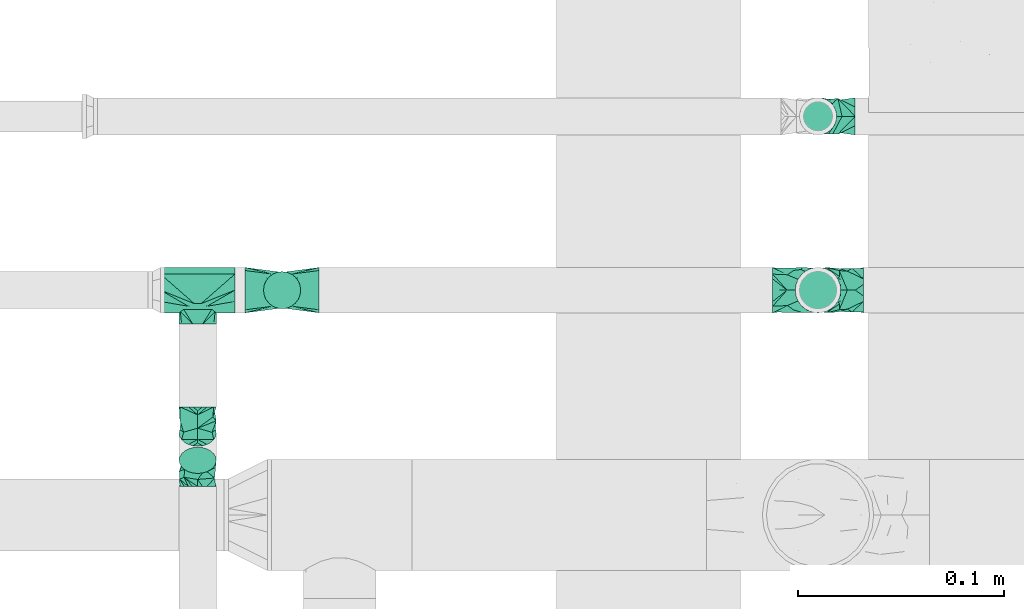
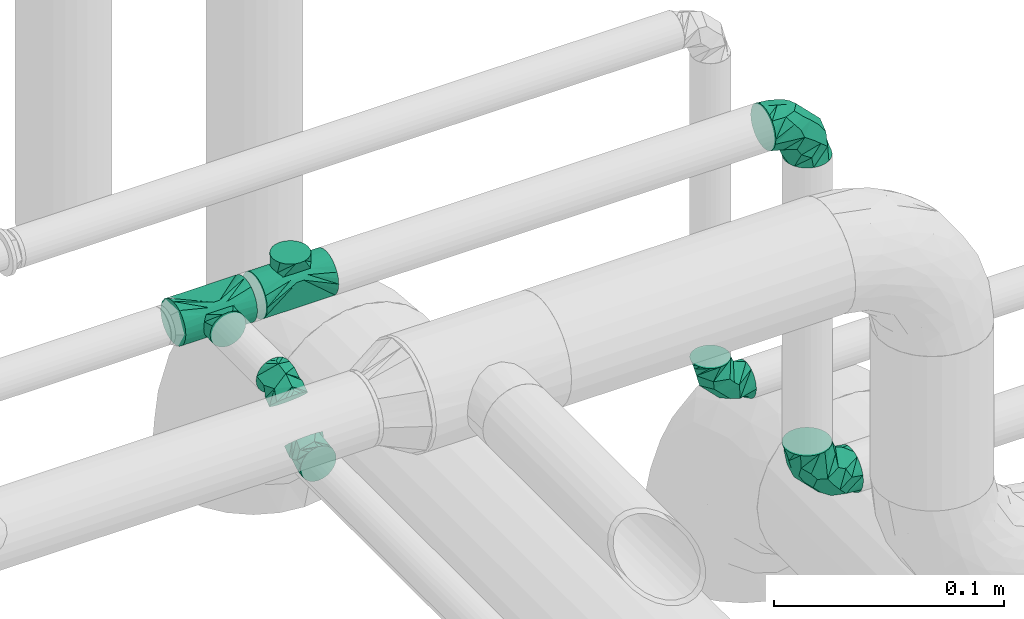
# One storey, part 93 of 156: 7 flow fittings.
"""IFC2X3 building model written with IfcOpenShell, lengths in millimetres."""

from ifc_helpers import new_model, entity, si_unit, converted_unit, derived_unit, direction, frame, origin_with_axes, place, context, subcontext, project, spatial, open_shell, surface_model, source, transform, mapped, type_object, element, save


model = new_model("IFC2X3")

# Units and contexts
model_context = context("Model", 3, precision=0.01, world=frame((0.0, 4.29681676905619e-09, 0.0)), true_north=direction((4.01073788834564e-13, 1.0)))
plan_context = context("Plan", 3, precision=0.01, world=frame((0.0, 4.29681676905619e-09, 0.0)), true_north=direction((4.01073788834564e-13, 1.0)))
body_context = subcontext(model_context, "Body", "Model", "MODEL_VIEW")
ifc_project = project(units=[converted_unit("PLANEANGLEUNIT", "DEGREE", entity("IfcPositiveLengthMeasure", 0.0174532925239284), si_unit("PLANEANGLEUNIT", "RADIAN"), dimensions=[0, 0, 0, 0, 0, 0, 0]), si_unit("AREAUNIT", "SQUARE_METRE"), si_unit("LENGTHUNIT", "METRE", prefix="MILLI"), si_unit("MASSUNIT", "GRAM", prefix="KILO"), si_unit("POWERUNIT", "WATT"), si_unit("PRESSUREUNIT", "PASCAL", prefix="KILO"), si_unit("FORCEUNIT", "NEWTON", prefix="KILO"), si_unit("ELECTRICVOLTAGEUNIT", "VOLT"), si_unit("ELECTRICCURRENTUNIT", "AMPERE"), si_unit("THERMODYNAMICTEMPERATUREUNIT", "DEGREE_CELSIUS"), si_unit("TIMEUNIT", "SECOND"), si_unit("VOLUMEUNIT", "CUBIC_METRE"), derived_unit("LINEARVELOCITYUNIT", [(si_unit("LENGTHUNIT", "METRE"), 1), (si_unit("TIMEUNIT", "SECOND"), -1)]), derived_unit("VOLUMETRICFLOWRATEUNIT", [(si_unit("VOLUMEUNIT", "CUBIC_METRE"), 1), (si_unit("TIMEUNIT", "SECOND"), -1)]), derived_unit("THERMALTRANSMITTANCEUNIT", [(si_unit("POWERUNIT", "WATT"), 1), (si_unit("THERMODYNAMICTEMPERATUREUNIT", "KELVIN"), -1), (si_unit("AREAUNIT", "SQUARE_METRE"), -1)]), derived_unit("SOUNDPRESSUREUNIT", [(si_unit("PRESSUREUNIT", "PASCAL"), 1)])], contexts=[model_context, plan_context])

# Site, building, storey
site_placement = place(None, frame((0.0, -4.29681676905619e-09, 0.0), z_axis=(0.0, 0.0, 1.0), x_axis=(1.0, 0.0, 0.0)))
site = spatial("IfcSite", under=ifc_project, at=site_placement, CompositionType="ELEMENT")
building_placement = place(site_placement, frame((0.0, 4.29681676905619e-09, 0.0), z_axis=(0.0, 0.0, 1.0), x_axis=(1.0, 0.0, 0.0)))
building = spatial("IfcBuilding", under=site, at=building_placement, Name="mc-building", CompositionType="ELEMENT")
storey_placement = place(building_placement, frame((0.0, 0.0, 205200.0), z_axis=(0.0, 0.0, 1.0), x_axis=(1.0, 0.0, 0.0)))
storey = spatial("IfcBuildingStorey", under=building, at=storey_placement, Name="Nivå D + 1,2 m", CompositionType="ELEMENT", Elevation=205200.0)

# Flow fittings
pipe_fitting_type_1 = type_object("IfcPipeFittingType", Name="magi_pipe_elbow_short_001", PredefinedType="BEND")
shared_shape_1 = source(origin_with_axes(), body_context, "Body", "SurfaceModel", [
    surface_model("IfcShellBasedSurfaceModel", [(-18.0, 4.5, -7.79423), (-18.0, 2.32937, -8.69333), (-18.0, 0.0, -9.0), (-18.0, -6.36396, -6.36396), (-18.0, 8.69333, -2.32937), (-18.0, 7.79423, -4.5), (-18.0, 6.36396, -6.36396), (-18.0, -4.5, -7.79423), (-18.0, -2.32937, -8.69333), (-18.0, -7.79423, -4.5), (-18.0, -8.69333, -2.32937), (-18.0, -9.0, 0.0), (-18.0, 8.69333, 2.32937), (-18.0, -8.69333, 2.32937), (-18.0, 7.79423, 4.5), (-18.0, 6.36396, 6.36396), (-18.0, 2.32937, 8.69333), (-18.0, 4.5, 7.79423), (-18.0, -7.79423, 4.5), (-18.0, -6.36396, 6.36396), (-18.0, -4.5, 7.79423), (-18.0, -2.32937, 8.69333), (-18.0, 0.0, 9.0), (-18.0, 9.0, 0.0), (0.0, 18.0, -9.0), (-2.32937, 18.0, -8.69333), (-4.5, 18.0, -7.79423), (6.36396, 18.0, -6.36396), (-7.79423, 18.0, -4.5), (-8.69333, 18.0, -2.32937), (-6.36396, 18.0, -6.36396), (8.69333, 18.0, 2.32937), (9.0, 18.0, 0.0), (2.32937, 18.0, -8.69333), (4.5, 18.0, -7.79423), (8.69333, 18.0, -2.32937), (7.79423, 18.0, -4.5), (-8.69333, 18.0, 2.32937), (-6.36396, 18.0, 6.36396), (-7.79423, 18.0, 4.5), (-4.5, 18.0, 7.79423), (-2.32937, 18.0, 8.69333), (7.79423, 18.0, 4.5), (6.36396, 18.0, 6.36396), (2.32937, 18.0, 8.69333), (4.5, 18.0, 7.79423), (0.0, 18.0, 9.0), (-9.0, 18.0, 0.0), (-16.09014, -8.48825, 0.0), (-10.51068, -2.97249, 7.92278), (-10.36056, -6.95302, 0.0), (-4.5, -5.38269, 0.0), (0.44134, -0.44134, 0.0), (2.91201, 2.02933, 0.0), (-2.70211, 1.18586, 7.65564), (-2.02933, -2.91201, 0.0), (-14.18028, -7.97651, 0.0), (-7.11648, 7.11648, 8.61373), (-4.93977, 9.63211, 8.64898), (2.97249, 10.51068, 7.92278), (2.01286, 5.84889, 7.1903), (5.38269, 4.5, 0.0), (-5.73616, -2.07922, 7.10204), (8.48825, 16.09014, 0.0), (7.97651, 14.18028, 0.0), (-9.63211, 4.93977, 8.64898), (-10.31802, 14.81802, 0.0), (-14.81802, 10.31802, 0.0), (-11.63604, 11.63604, 0.0), (6.95302, 10.36056, 0.0), (-10.51068, -2.97249, -7.92278), (-4.93977, 9.63211, -8.64898), (0.8585, 4.1248, -7.1903), (-2.68792, 2.14037, -8.03971), (2.97249, 10.51068, -7.92278), (-13.67048, 7.29638, -6.27272), (-8.50355, 2.18787, -8.98901), (-9.83427, 8.11209, -7.36254)], [open_shell([[[0, 1, 2]], [[0, 2, 3]], [[0, 4, 5]], [[6, 0, 5]], [[4, 0, 3]], [[7, 3, 8]], [[3, 2, 8]], [[9, 10, 3]], [[11, 3, 10]], [[3, 11, 4]], [[11, 12, 4]], [[12, 11, 13]], [[14, 12, 15]], [[16, 17, 15]], [[13, 15, 12]], [[15, 18, 16]], [[18, 19, 16]], [[15, 13, 18]], [[20, 21, 19]], [[22, 19, 21]], [[16, 19, 22]], [[23, 4, 12]], [[24, 25, 26]], [[27, 24, 26]], [[28, 29, 26]], [[28, 26, 30]], [[31, 32, 26]], [[33, 27, 34]], [[33, 24, 27]], [[27, 35, 36]], [[35, 27, 32]], [[26, 32, 27]], [[26, 29, 37]], [[31, 26, 37]], [[38, 37, 39]], [[38, 40, 41]], [[37, 38, 31]], [[41, 42, 38]], [[41, 43, 42]], [[42, 31, 38]], [[43, 44, 45]], [[44, 43, 46]], [[46, 43, 41]], [[37, 29, 47]], [[13, 48, 18]], [[49, 50, 51]], [[52, 53, 54]], [[54, 55, 52]], [[20, 19, 56]], [[18, 56, 19]], [[57, 54, 58]], [[20, 50, 21]], [[22, 21, 50]], [[59, 60, 61]], [[59, 58, 60]], [[55, 54, 62]], [[22, 50, 49]], [[22, 49, 16]], [[62, 49, 51]], [[62, 51, 55]], [[42, 63, 31]], [[49, 17, 16]], [[64, 63, 42]], [[12, 65, 23]], [[14, 15, 49]], [[54, 65, 62]], [[17, 49, 15]], [[57, 58, 66]], [[67, 57, 68]], [[53, 60, 54]], [[44, 46, 69]], [[69, 45, 44]], [[38, 59, 40]], [[41, 59, 46]], [[43, 45, 64]], [[54, 60, 58]], [[64, 45, 69]], [[61, 60, 53]], [[31, 63, 32]], [[59, 61, 69]], [[58, 47, 66]], [[20, 56, 50]], [[54, 57, 65]], [[49, 65, 14]], [[37, 47, 58]], [[64, 42, 43]], [[39, 37, 58]], [[14, 65, 12]], [[38, 39, 59]], [[13, 11, 48]], [[39, 58, 59]], [[48, 56, 18]], [[40, 59, 41]], [[59, 69, 46]], [[49, 62, 65]], [[57, 67, 65]], [[66, 68, 57]], [[67, 23, 65]], [[70, 50, 2]], [[71, 72, 73]], [[74, 71, 28]], [[70, 1, 0]], [[70, 51, 50]], [[35, 32, 63]], [[75, 6, 5]], [[75, 4, 23]], [[5, 4, 75]], [[51, 76, 55]], [[75, 23, 67]], [[70, 6, 75]], [[48, 11, 10]], [[7, 56, 3]], [[2, 50, 8]], [[51, 70, 76]], [[56, 7, 50]], [[7, 8, 50]], [[70, 2, 1]], [[66, 47, 71]], [[52, 72, 53]], [[6, 70, 0]], [[70, 75, 76]], [[73, 52, 55]], [[71, 68, 66]], [[61, 53, 72]], [[34, 64, 69]], [[29, 71, 47]], [[30, 74, 28]], [[56, 9, 3]], [[26, 25, 74]], [[63, 64, 36]], [[56, 48, 9]], [[26, 74, 30]], [[9, 48, 10]], [[24, 74, 25]], [[33, 69, 24]], [[28, 71, 29]], [[27, 64, 34]], [[69, 33, 34]], [[68, 71, 77]], [[74, 24, 69]], [[36, 35, 63]], [[61, 72, 74]], [[61, 74, 69]], [[67, 77, 75]], [[74, 72, 71]], [[36, 64, 27]], [[76, 77, 73]], [[75, 77, 76]], [[77, 71, 73]], [[55, 76, 73]], [[72, 52, 73]], [[77, 67, 68]]])]),
])
flow_fitting_placement = place(storey_placement, frame((326966.13637, 463477.7375, 4110.0), z_axis=(0.0, -1.0, 0.0), x_axis=(0.0, 0.0, -1.0)))
element("IfcFlowFitting", 1, at=flow_fitting_placement, inside=storey, type_object=pipe_fitting_type_1, Name="magi_pipe_elbow_short_001", context=body_context, shape_type="MappedRepresentation", body=[
    mapped(shared_shape_1, transform((0.0, 0.0, 0.0), scale=1.0)),
])
shared_shape_2 = source(origin_with_axes(), body_context, "Body", "SurfaceModel", [
    surface_model("IfcShellBasedSurfaceModel", [(-22.0, 0.0, -11.0), (-22.0, -2.84701, -10.62518), (-22.0, 2.84701, -10.62518), (-22.0, 5.5, -9.52628), (-22.0, 7.77817, -7.77817), (-22.0, 10.62518, -2.84701), (-22.0, 9.52628, -5.5), (-22.0, 9.52628, 5.5), (-22.0, 10.62518, 2.84701), (-22.0, 7.77817, 7.77817), (-22.0, -2.84701, 10.62518), (-22.0, 0.0, 11.0), (-22.0, -5.5, 9.52628), (-22.0, -7.77817, -7.77817), (-22.0, -9.52628, -5.5), (-22.0, -5.5, -9.52628), (-22.0, -10.62518, -2.84701), (-22.0, -9.52628, 5.5), (-22.0, -11.0, 0.0), (-22.0, 2.84701, 10.62518), (-22.0, 5.5, 9.52628), (-22.0, -7.77817, 7.77817), (-22.0, -10.62518, 2.84701), (-22.0, 11.0, 0.0), (-2.84701, 22.0, -10.62518), (2.84701, 22.0, -10.62518), (0.0, 22.0, -11.0), (-7.77817, 22.0, -7.77817), (-5.5, 22.0, -9.52628), (-9.52628, 22.0, -5.5), (-10.62518, 22.0, -2.84701), (5.5, 22.0, -9.52628), (9.52628, 22.0, -5.5), (7.77817, 22.0, -7.77817), (10.62518, 22.0, -2.84701), (9.52628, 22.0, 5.5), (11.0, 22.0, 0.0), (-10.62518, 22.0, 2.84701), (-7.77817, 22.0, 7.77817), (-9.52628, 22.0, 5.5), (-5.5, 22.0, 9.52628), (-2.84701, 22.0, 10.62518), (7.77817, 22.0, 7.77817), (10.62518, 22.0, 2.84701), (5.5, 22.0, 9.52628), (0.0, 22.0, 11.0), (2.84701, 22.0, 10.62518), (-11.0, 22.0, 0.0), (-18.49859, -10.0618, 0.0), (-10.24859, -7.85122, 0.0), (-9.34901, -7.11844, 5.09685), (-14.89307, -7.23891, 7.45305), (5.78852, 8.4802, 6.46058), (2.12041, 3.18539, 6.87037), (3.55913, 2.48029, 0.0), (1.01335, 10.61047, 10.36705), (-14.99718, -9.1236, 0.0), (5.14392, 14.4409, 9.10203), (-11.75269, -3.39299, 9.59306), (7.85122, 10.24859, 0.0), (9.1236, 14.99718, 0.0), (-8.06006, 14.23023, 9.19276), (-3.72868, 16.47919, 10.60733), (-15.76443, 3.42828, 10.73288), (-8.21542, -0.66336, 10.02562), (-12.61091, 18.11091, 0.0), (-14.22183, 14.22183, 0.0), (-5.37587, -4.55716, 5.82482), (6.57884, 5.5, 0.0), (-15.57958, 10.44534, 6.62476), (-10.44966, 10.29499, 9.49395), (10.0618, 18.49859, 0.0), (-7.4322, 4.10078, 10.94703), (-2.22445, -1.03187, 7.15282), (0.53942, -0.53942, 0.0), (-3.02405, 7.17381, 10.80133), (-18.11091, 12.61091, 0.0), (-2.48029, -3.55913, 0.0), (-5.5, -6.57884, 0.0), (-9.08269, -0.07613, -10.40197), (-2.22445, -1.03187, -7.15282), (-6.00435, -4.17546, -6.76221), (-8.06006, 14.23023, -9.19276), (-15.76443, 3.42828, -10.73288), (-11.75269, -3.39299, -9.59306), (-15.57958, 10.44534, -6.62476), (-7.4322, 4.10078, -10.94703), (-10.44966, 10.29499, -9.49395), (2.12041, 3.18539, -6.87037), (-3.02405, 7.17381, -10.80133), (-14.89307, -7.23891, -7.45305), (5.14392, 14.4409, -9.10203), (-3.72868, 16.47919, -10.60733), (1.01335, 10.61047, -10.36705), (5.78852, 8.4802, -6.46058), (-9.34901, -7.11844, -5.09685)], [open_shell([[[0, 1, 2]], [[3, 2, 4]], [[5, 6, 4]], [[7, 8, 9]], [[10, 11, 12]], [[4, 2, 1]], [[5, 4, 1]], [[13, 14, 15]], [[1, 15, 14]], [[14, 16, 1]], [[17, 1, 16]], [[18, 17, 16]], [[5, 1, 17]], [[17, 8, 5]], [[19, 20, 9]], [[8, 19, 9]], [[19, 8, 17]], [[17, 21, 19]], [[17, 18, 22]], [[19, 21, 12]], [[11, 19, 12]], [[23, 5, 8]], [[24, 25, 26]], [[27, 24, 28]], [[27, 29, 30]], [[25, 24, 27]], [[25, 27, 30]], [[31, 32, 33]], [[32, 31, 25]], [[25, 34, 32]], [[34, 25, 35]], [[34, 35, 36]], [[35, 25, 30]], [[30, 37, 35]], [[38, 37, 39]], [[38, 40, 41]], [[38, 41, 37]], [[35, 37, 41]], [[41, 42, 35]], [[43, 36, 35]], [[44, 45, 46]], [[44, 42, 41]], [[44, 41, 45]], [[37, 30, 47]], [[17, 22, 48]], [[49, 50, 51]], [[52, 53, 54]], [[52, 55, 53]], [[51, 21, 56]], [[21, 17, 56]], [[41, 57, 45]], [[11, 51, 58]], [[51, 10, 12]], [[57, 59, 60]], [[61, 55, 62]], [[63, 58, 64]], [[65, 66, 61]], [[51, 11, 10]], [[11, 58, 19]], [[67, 58, 50]], [[54, 68, 52]], [[63, 9, 20]], [[22, 18, 48]], [[23, 8, 69]], [[7, 9, 63]], [[62, 40, 38]], [[19, 58, 63]], [[7, 69, 8]], [[63, 20, 19]], [[59, 52, 68]], [[60, 42, 44]], [[57, 46, 45]], [[69, 70, 66]], [[52, 59, 57]], [[39, 62, 38]], [[60, 35, 42]], [[44, 57, 60]], [[44, 46, 57]], [[21, 51, 12]], [[43, 71, 36]], [[51, 56, 49]], [[70, 69, 72]], [[73, 74, 53]], [[75, 72, 73]], [[7, 63, 69]], [[47, 65, 37]], [[35, 71, 43]], [[55, 57, 62]], [[52, 57, 55]], [[41, 40, 62]], [[60, 71, 35]], [[37, 61, 39]], [[48, 56, 17]], [[61, 62, 39]], [[62, 57, 41]], [[69, 63, 72]], [[53, 75, 73]], [[69, 66, 76]], [[67, 64, 58]], [[75, 53, 55]], [[67, 77, 73]], [[55, 61, 75]], [[70, 75, 61]], [[50, 49, 78]], [[67, 50, 78]], [[51, 50, 58]], [[77, 74, 73]], [[73, 72, 64]], [[67, 78, 77]], [[73, 64, 67]], [[63, 64, 72]], [[37, 65, 61]], [[75, 70, 72]], [[23, 69, 76]], [[66, 70, 61]], [[53, 74, 54]], [[79, 80, 81]], [[65, 30, 82]], [[3, 4, 83]], [[2, 84, 0]], [[5, 23, 85]], [[14, 48, 16]], [[83, 6, 85]], [[85, 6, 5]], [[86, 85, 87]], [[83, 86, 79]], [[83, 84, 2]], [[48, 18, 16]], [[80, 77, 81]], [[88, 80, 89]], [[14, 13, 56]], [[15, 1, 90]], [[91, 31, 60]], [[13, 15, 90]], [[90, 1, 0]], [[84, 90, 0]], [[13, 90, 56]], [[29, 92, 82]], [[6, 83, 4]], [[85, 23, 76]], [[80, 88, 74]], [[82, 66, 65]], [[93, 82, 92]], [[29, 82, 30]], [[29, 27, 92]], [[27, 28, 92]], [[71, 60, 32]], [[91, 92, 24]], [[56, 48, 14]], [[34, 36, 71]], [[28, 24, 92]], [[94, 88, 93]], [[26, 91, 24]], [[31, 91, 25]], [[83, 2, 3]], [[94, 93, 91]], [[33, 60, 31]], [[89, 93, 88]], [[25, 91, 26]], [[71, 32, 34]], [[92, 91, 93]], [[59, 91, 60]], [[86, 83, 85]], [[95, 78, 49]], [[33, 32, 60]], [[66, 87, 85]], [[94, 59, 68]], [[89, 80, 86]], [[49, 56, 90]], [[94, 54, 88]], [[59, 94, 91]], [[95, 90, 84]], [[87, 89, 86]], [[82, 93, 89]], [[81, 78, 95]], [[90, 95, 49]], [[81, 95, 84]], [[79, 81, 84]], [[82, 87, 66]], [[83, 79, 84]], [[80, 79, 86]], [[77, 80, 74]], [[77, 78, 81]], [[47, 30, 65]], [[66, 85, 76]], [[89, 87, 82]], [[54, 94, 68]], [[54, 74, 88]]])]),
])
for number, where, z_axis, x_axis, name in (
    (2, (326966.13637, 463393.4875, 4309.0), (0.0, 1.0, 0.0), (1.0, 0.0, 0.0), "magi_pipe_elbow_short_001"),
    (3, (326966.13637, 463393.4875, 4112.0), (0.0, -1.0, 0.0), (0.0, 0.0, -1.0), "magi_pipe_elbow_short_001"),
):
    element("IfcFlowFitting", number, at=place(storey_placement, frame(where, z_axis=z_axis, x_axis=x_axis)), inside=storey, type_object=pipe_fitting_type_1, Name=name, context=body_context, shape_type="MappedRepresentation", body=[
        mapped(shared_shape_2, transform((0.0, 0.0, 0.0), scale=1.0)),
    ])
shared_shape_3 = source(origin_with_axes(), body_context, "Body", "SurfaceModel", [
    surface_model("IfcShellBasedSurfaceModel", [(-7.45584, 4.5, -7.79423), (-7.45584, 2.32937, -8.69333), (-7.45584, 0.0, -9.0), (-7.45584, -6.36396, -6.36396), (-7.45584, 8.69333, -2.32937), (-7.45584, 7.79423, -4.5), (-7.45584, 6.36396, -6.36396), (-7.45584, -4.5, -7.79423), (-7.45584, -2.32937, -8.69333), (-7.45584, -7.79423, -4.5), (-7.45584, -8.69333, -2.32937), (-7.45584, -9.0, 0.0), (-7.45584, 8.69333, 2.32937), (-7.45584, -8.69333, 2.32937), (-7.45584, 7.79423, 4.5), (-7.45584, 6.36396, 6.36396), (-7.45584, 2.32937, 8.69333), (-7.45584, 4.5, 7.79423), (-7.45584, -7.79423, 4.5), (-7.45584, -6.36396, 6.36396), (-7.45584, -4.5, 7.79423), (-7.45584, -2.32937, 8.69333), (-7.45584, 0.0, 9.0), (-7.45584, 9.0, 0.0), (5.27208, 5.27208, -9.0), (3.62496, 6.91919, -8.69333), (2.0901, 8.45406, -7.79423), (9.77208, 0.77208, -6.36396), (-0.23927, 10.78343, -4.5), (-0.87504, 11.41919, -2.32937), (0.77208, 9.77208, -6.36396), (11.41919, -0.87504, -2.32937), (6.91919, 3.62496, -8.69333), (8.45406, 2.0901, -7.79423), (10.78343, -0.23927, -4.5), (11.41919, -0.87504, 2.32937), (11.63604, -1.09188, 0.0), (9.77208, 0.77208, 6.36396), (-0.87504, 11.41919, 2.32937), (0.77208, 9.77208, 6.36396), (-0.23927, 10.78343, 4.5), (2.0901, 8.45406, 7.79423), (3.62496, 6.91919, 8.69333), (10.78343, -0.23927, 4.5), (6.91919, 3.62496, 8.69333), (8.45406, 2.0901, 7.79423), (5.27208, 5.27208, 9.0), (-1.09188, 11.63604, 0.0), (-3.55786, -8.22464, 0.0), (-2.49647, -4.73929, 7.29293), (0.8774, 4.5905, 8.72391), (-0.68155, 0.58624, 8.97389), (-2.85416, 7.01633, 6.62539), (-5.50685, -8.61232, 0.0), (2.87661, -6.94475, 0.0), (-0.34063, -7.5847, 0.0), (4.91359, -2.18987, 6.9831), (5.60405, -5.12233, 0.0), (-4.01169, 9.68508, 0.0), (8.33149, -3.29991, 0.0), (9.98376, -2.1959, 0.0), (-0.73677, 5.37048, -8.2068), (4.81728, -2.45322, -6.83687), (-1.11341, -1.36817, -8.67955)], [open_shell([[[0, 1, 2]], [[0, 2, 3]], [[0, 4, 5]], [[6, 0, 5]], [[4, 0, 3]], [[7, 3, 8]], [[3, 2, 8]], [[9, 10, 3]], [[11, 3, 10]], [[3, 11, 4]], [[11, 12, 4]], [[12, 11, 13]], [[14, 12, 15]], [[16, 17, 15]], [[13, 15, 12]], [[15, 18, 16]], [[18, 19, 16]], [[15, 13, 18]], [[20, 21, 19]], [[22, 19, 21]], [[16, 19, 22]], [[23, 4, 12]], [[24, 25, 26]], [[27, 24, 26]], [[28, 29, 26]], [[28, 26, 30]], [[31, 26, 29]], [[32, 27, 33]], [[32, 24, 27]], [[27, 31, 34]], [[26, 31, 27]], [[31, 35, 36]], [[31, 29, 37]], [[29, 38, 39]], [[39, 38, 40]], [[39, 41, 42]], [[39, 37, 29]], [[37, 39, 42]], [[35, 37, 43]], [[31, 37, 35]], [[37, 44, 45]], [[44, 37, 46]], [[42, 46, 37]], [[38, 29, 47]], [[19, 48, 20]], [[18, 48, 19]], [[20, 48, 49]], [[40, 50, 39]], [[17, 49, 51]], [[49, 22, 21]], [[52, 50, 40]], [[13, 53, 18]], [[54, 49, 55]], [[54, 56, 51]], [[16, 49, 17]], [[14, 52, 12]], [[13, 11, 53]], [[56, 54, 57]], [[52, 14, 15]], [[58, 23, 12]], [[51, 52, 15]], [[53, 48, 18]], [[22, 49, 16]], [[20, 49, 21]], [[51, 49, 54]], [[46, 56, 44]], [[45, 44, 56]], [[12, 52, 58]], [[42, 56, 46]], [[59, 43, 37]], [[59, 37, 45]], [[35, 60, 36]], [[57, 59, 56]], [[49, 48, 55]], [[58, 52, 47]], [[38, 47, 52]], [[45, 56, 59]], [[52, 40, 38]], [[42, 41, 50]], [[59, 60, 43]], [[39, 50, 41]], [[43, 60, 35]], [[42, 50, 56]], [[50, 52, 51]], [[56, 50, 51]], [[51, 15, 17]], [[61, 62, 63]], [[29, 61, 58]], [[0, 63, 1]], [[1, 63, 2]], [[61, 4, 58]], [[9, 53, 10]], [[48, 8, 55]], [[48, 53, 9]], [[61, 5, 4]], [[26, 25, 61]], [[48, 7, 8]], [[6, 63, 0]], [[53, 11, 10]], [[9, 3, 48]], [[48, 3, 7]], [[63, 54, 55]], [[63, 8, 2]], [[4, 23, 58]], [[58, 47, 29]], [[54, 63, 62]], [[29, 28, 61]], [[30, 26, 61]], [[31, 36, 60]], [[25, 24, 62]], [[60, 59, 34]], [[63, 6, 5]], [[25, 62, 61]], [[63, 55, 8]], [[32, 62, 24]], [[59, 62, 33]], [[5, 61, 63]], [[57, 54, 62]], [[59, 33, 27]], [[31, 60, 34]], [[62, 59, 57]], [[59, 27, 34]], [[33, 62, 32]], [[61, 28, 30]]])]),
])
for number, where, z_axis, x_axis, name in (
    (4, (326665.49724, 463329.4875, 4309.0), (1.0, 0.0, 0.0), (0.0, -1.0, 0.0), "magi_pipe_elbow_short_001"),
    (5, (326665.49724, 463305.75283, 4285.26532999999), (-1.0, 0.0, 0.0), (0.0, -0.707106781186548, -0.707106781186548), "magi_pipe_elbow_short_001"),
):
    element("IfcFlowFitting", number, at=place(storey_placement, frame(where, z_axis=z_axis, x_axis=x_axis)), inside=storey, type_object=pipe_fitting_type_1, Name=name, context=body_context, shape_type="MappedRepresentation", body=[
        mapped(shared_shape_3, transform((0.0, 0.0, 0.0), scale=1.0)),
    ])
pipe_fitting_type_2 = type_object("IfcPipeFittingType", Name="magi_pipe_tee_centric_90_001", PredefinedType="JUNCTION")
shared_shape_4 = source(origin_with_axes(), body_context, "Body", "SurfaceModel", [
    surface_model("IfcShellBasedSurfaceModel", [(-18.0, 0.0, -11.0), (-18.0, -2.84701, -10.62518), (-18.0, 2.84701, -10.62518), (-18.0, 5.5, -9.52628), (-18.0, 7.77817, -7.77817), (-18.0, 10.62518, -2.84701), (-18.0, 9.52628, -5.5), (-18.0, -11.0, 0.0), (-18.0, -5.5, 9.52628), (-18.0, -5.5, -9.52628), (-18.0, -7.77817, -7.77817), (-18.0, -10.62518, -2.84701), (-18.0, -9.52628, -5.5), (-18.0, 10.62518, 2.84701), (-18.0, 11.0, 0.0), (-18.0, 7.77817, 7.77817), (-18.0, 9.52628, 5.5), (-18.0, 5.5, 9.52628), (-18.0, 2.84701, 10.62518), (-18.0, 0.0, 11.0), (-18.0, -7.77817, 7.77817), (-18.0, -9.52628, 5.5), (-18.0, -10.62518, 2.84701), (-18.0, -2.84701, 10.62518), (18.0, 2.84701, -10.62518), (18.0, -2.84701, -10.62518), (18.0, 0.0, -11.0), (18.0, 7.77817, -7.77817), (18.0, 5.5, -9.52628), (18.0, 9.52628, -5.5), (18.0, 10.62518, -2.84701), (18.0, -7.77817, -7.77817), (18.0, 5.5, 9.52628), (18.0, -11.0, 0.0), (18.0, -5.5, -9.52628), (18.0, -10.62518, -2.84701), (18.0, -9.52628, -5.5), (18.0, 10.62518, 2.84701), (18.0, 7.77817, 7.77817), (18.0, 9.52628, 5.5), (18.0, -10.62518, 2.84701), (18.0, 0.0, 11.0), (18.0, 2.84701, 10.62518), (18.0, -9.52628, 5.5), (18.0, -5.5, 9.52628), (18.0, -7.77817, 7.77817), (18.0, -2.84701, 10.62518), (18.0, 11.0, 0.0), (9.0, -11.0, 0.0), (8.40205, -10.51639, 3.22577), (6.81426, -9.297, 5.87927), (4.53684, -7.7835, 7.77284), (1.64592, -6.53522, 8.84822), (-9.0, -11.0, 0.0), (-8.40238, -10.51665, 3.22491), (-6.81551, -9.29791, 5.87783), (-4.53745, -7.78386, 7.77249), (-1.64885, -6.53595, 8.84767), (1.64592, -6.53522, -8.84822), (4.53684, -7.7835, -7.77284), (-4.53745, -7.78386, -7.77249), (-1.64885, -6.53595, -8.84767), (6.81426, -9.297, -5.87927), (8.40205, -10.51639, -3.22577), (-6.81551, -9.29791, -5.87783), (-8.40238, -10.51665, -3.22491), (0.0, -16.5, -9.0), (2.32937, -16.5, -8.69333), (4.5, -16.5, -7.79423), (-8.69333, -16.5, 2.32937), (-4.5, -16.5, 7.79423), (6.36396, -16.5, -6.36396), (7.79423, -16.5, -4.5), (-9.0, -16.5, 0.0), (-2.32937, -16.5, -8.69333), (-6.36396, -16.5, -6.36396), (-4.5, -16.5, -7.79423), (-7.79423, -16.5, -4.5), (-8.69333, -16.5, -2.32937), (8.69333, -16.5, -2.32937), (8.69333, -16.5, 2.32937), (9.0, -16.5, 0.0), (2.32937, -16.5, 8.69333), (7.79423, -16.5, 4.5), (4.5, -16.5, 7.79423), (6.36396, -16.5, 6.36396), (-6.36396, -16.5, 6.36396), (-7.79423, -16.5, 4.5), (0.0, -16.5, 9.0), (-2.32937, -16.5, 8.69333)], [open_shell([[[0, 1, 2]], [[3, 2, 4]], [[5, 6, 4]], [[4, 2, 7]], [[4, 7, 8]], [[9, 10, 1]], [[11, 1, 10]], [[12, 11, 10]], [[7, 1, 11]], [[7, 2, 1]], [[8, 5, 4]], [[13, 14, 15]], [[16, 13, 15]], [[5, 8, 17]], [[15, 14, 17]], [[18, 17, 19]], [[20, 8, 21]], [[22, 21, 8]], [[23, 19, 8]], [[8, 7, 22]], [[8, 19, 17]], [[17, 14, 5]], [[24, 25, 26]], [[27, 24, 28]], [[27, 29, 30]], [[31, 24, 27]], [[32, 33, 27]], [[25, 31, 34]], [[25, 24, 31]], [[31, 35, 36]], [[27, 35, 31]], [[27, 33, 35]], [[27, 30, 37]], [[27, 37, 32]], [[38, 37, 39]], [[33, 32, 40]], [[32, 37, 38]], [[41, 32, 42]], [[43, 44, 45]], [[44, 43, 40]], [[44, 41, 46]], [[44, 40, 32]], [[32, 41, 44]], [[37, 30, 47]], [[33, 40, 48]], [[49, 48, 40]], [[40, 43, 49]], [[43, 45, 50]], [[44, 51, 50]], [[41, 52, 51]], [[44, 50, 45]], [[43, 50, 49]], [[53, 54, 22]], [[22, 7, 53]], [[54, 21, 22]], [[8, 55, 56]], [[21, 55, 20]], [[55, 21, 54]], [[8, 20, 55]], [[56, 57, 19]], [[52, 15, 57]], [[46, 41, 51]], [[42, 52, 41]], [[52, 42, 32]], [[38, 15, 52]], [[16, 39, 37]], [[38, 39, 15]], [[52, 32, 38]], [[13, 37, 47]], [[19, 57, 18]], [[23, 56, 19]], [[8, 56, 23]], [[13, 16, 37]], [[17, 57, 15]], [[39, 16, 15]], [[18, 57, 17]], [[47, 14, 13]], [[46, 51, 44]], [[30, 14, 47]], [[5, 30, 29]], [[29, 27, 6]], [[27, 28, 58]], [[24, 26, 58]], [[24, 58, 28]], [[4, 27, 58]], [[26, 25, 59]], [[4, 6, 27]], [[6, 5, 29]], [[5, 14, 30]], [[60, 1, 0]], [[61, 2, 3]], [[2, 61, 0]], [[61, 3, 4]], [[1, 60, 9]], [[59, 25, 34]], [[62, 59, 34]], [[62, 31, 36]], [[58, 26, 59]], [[34, 31, 62]], [[36, 35, 63]], [[35, 48, 63]], [[48, 35, 33]], [[36, 63, 62]], [[64, 9, 60]], [[10, 64, 12]], [[10, 9, 64]], [[60, 0, 61]], [[65, 53, 11]], [[65, 11, 12]], [[11, 53, 7]], [[65, 12, 64]], [[58, 61, 4]], [[66, 67, 68]], [[69, 66, 68]], [[70, 71, 72]], [[68, 71, 70]], [[73, 66, 69]], [[74, 75, 76]], [[74, 66, 75]], [[77, 73, 78]], [[73, 77, 75]], [[66, 73, 75]], [[72, 79, 70]], [[80, 70, 81]], [[82, 80, 83]], [[84, 82, 83]], [[84, 83, 85]], [[70, 80, 82]], [[69, 86, 87]], [[86, 69, 70]], [[70, 88, 89]], [[69, 68, 70]], [[82, 88, 70]], [[70, 79, 81]], [[53, 73, 69]], [[54, 87, 86]], [[69, 87, 53]], [[86, 70, 54]], [[53, 87, 54]], [[55, 54, 89]], [[57, 56, 51]], [[55, 50, 56]], [[89, 88, 55]], [[70, 89, 54]], [[82, 50, 88]], [[84, 49, 82]], [[49, 85, 83]], [[84, 85, 49]], [[48, 83, 80]], [[51, 52, 57]], [[50, 51, 56]], [[83, 48, 49]], [[49, 50, 82]], [[48, 80, 81]], [[55, 88, 50]], [[48, 81, 79]], [[63, 72, 71]], [[79, 72, 48]], [[71, 68, 63]], [[48, 72, 63]], [[62, 63, 67]], [[58, 59, 61]], [[62, 60, 59]], [[67, 66, 62]], [[68, 67, 63]], [[74, 64, 66]], [[76, 65, 74]], [[65, 75, 77]], [[76, 75, 65]], [[53, 77, 78]], [[64, 60, 62]], [[61, 59, 60]], [[77, 53, 65]], [[65, 64, 74]], [[78, 73, 53]], [[62, 66, 64]]])]),
])
for number, where, z_axis, x_axis, name in (
    (6, (326706.39816, 463393.4875, 4309.0), (0.0, -1.0, 0.0), (-1.0, 0.0, 0.0), "magi_pipe_tee_centric_90_001"),
    (7, (326665.49724, 463393.4875, 4309.0), (0.0, 0.0, -1.0), (-1.0, 0.0, 0.0), "magi_pipe_tee_centric_90_001"),
):
    element("IfcFlowFitting", number, at=place(storey_placement, frame(where, z_axis=z_axis, x_axis=x_axis)), inside=storey, type_object=pipe_fitting_type_2, Name=name, context=body_context, shape_type="MappedRepresentation", body=[
        mapped(shared_shape_4, transform((0.0, 0.0, 0.0), scale=1.0)),
    ])

save(model, "model.ifc")
